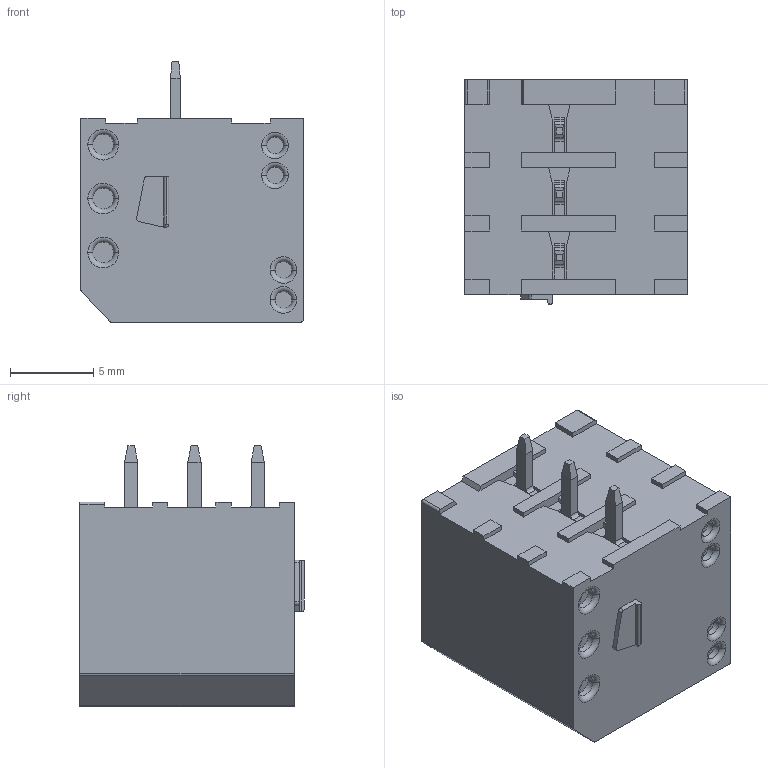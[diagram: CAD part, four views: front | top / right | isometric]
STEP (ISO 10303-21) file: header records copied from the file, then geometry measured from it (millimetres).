
FILE_DESCRIPTION((''),'2;1');
FILE_NAME('3','2019-05-08T',('zhenbing.lai'),(''),'CREO PARAMETRIC BY PTC INC, 2016260','CREO PARAMETRIC BY PTC INC, 2016260','');
FILE_SCHEMA(('CONFIG_CONTROL_DESIGN'));
Length unit declared in the file: millimetre
Products named in the file (1): 3
Bounding box: 13.4 x 13.53 x 15.7 mm (x, y, z)
Volume: 1968.7 mm3; surface area: 1133.5 mm2
Topology: 1 solids, 1 shells, 285 faces, 766 edges, 504 vertices
Faces by surface type: plane 204, cylinder 49, torus 28, cone 3, bspline 1
Entity records: 8967 total; most frequent: CARTESIAN_POINT 1612, ORIENTED_EDGE 1530, DIRECTION 1523, EDGE_CURVE 765, VECTOR 555, LINE 555, VERTEX_POINT 504, AXIS2_PLACEMENT_3D 484
